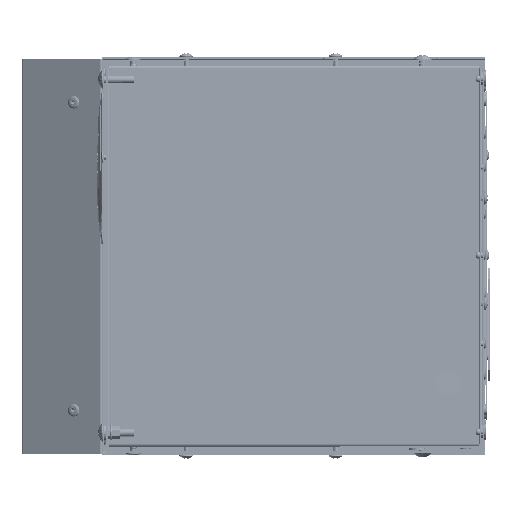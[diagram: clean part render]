
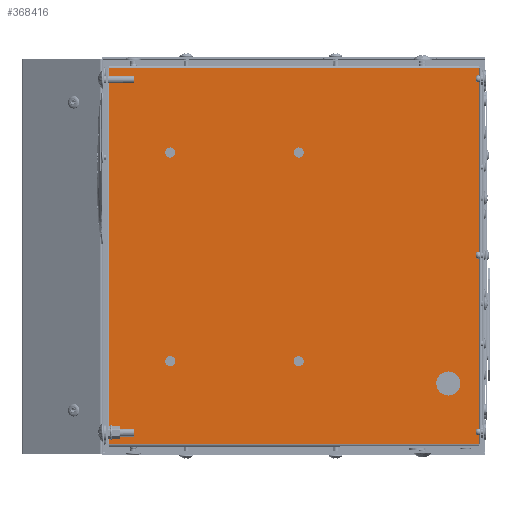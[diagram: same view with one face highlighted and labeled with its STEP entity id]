
A CAD part, front view. The second image highlights one B-rep face of the part: STEP entity #368416.
In plain terms, the highlighted planar face has unit normal (0, -1, 0) as drawn and (0, 0, -1) by its records, which use the part's own axes.
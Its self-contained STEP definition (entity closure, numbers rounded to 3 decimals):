
#9543 = CARTESIAN_POINT ( 'NONE',  ( -146.255, -150.75, -1.422 ) ) ;
#11299 = EDGE_CURVE ( 'NONE', #460472, #285703, #25826, .T. ) ;
#13814 = CARTESIAN_POINT ( 'NONE',  ( -146.255, -148.54, -1.422 ) ) ;
#24416 = CARTESIAN_POINT ( 'NONE',  ( 146.255, 148.54, -1.422 ) ) ;
#25704 = CARTESIAN_POINT ( 'NONE',  ( 0., 0., -1.422 ) ) ;
#25826 = CIRCLE ( 'NONE', #117041, 4. ) ;
#26899 = VECTOR ( 'NONE', #457304, 1000. ) ;
#29392 = EDGE_CURVE ( 'NONE', #103346, #456439, #119246, .T. ) ;
#30578 = CARTESIAN_POINT ( 'NONE',  ( 3.865, 83.15, -1.422 ) ) ;
#31519 = ORIENTED_EDGE ( 'NONE', *, *, #193578, .F. ) ;
#32128 = ORIENTED_EDGE ( 'NONE', *, *, #260641, .F. ) ;
#34718 = DIRECTION ( 'NONE',  ( -1., 0., 0. ) ) ;
#34944 = CARTESIAN_POINT ( 'NONE',  ( 122.265, 100.75, -1.422 ) ) ;
#43455 = CARTESIAN_POINT ( 'NONE',  ( 146.255, -150.75, -1.422 ) ) ;
#46208 = EDGE_CURVE ( 'NONE', #336805, #456439, #89104, .T. ) ;
#48733 = CARTESIAN_POINT ( 'NONE',  ( -97.735, -81.95, -1.422 ) ) ;
#50136 = VERTEX_POINT ( 'NONE', #121982 ) ;
#56711 = VERTEX_POINT ( 'NONE', #24416 ) ;
#59251 = DIRECTION ( 'NONE',  ( 0., 0., -1. ) ) ;
#63734 = AXIS2_PLACEMENT_3D ( 'NONE', #384096, #147924, #423805 ) ;
#65308 = DIRECTION ( 'NONE',  ( -1., 0., 0. ) ) ;
#70146 = DIRECTION ( 'NONE',  ( -1., 0., 0. ) ) ;
#72260 = CARTESIAN_POINT ( 'NONE',  ( -93.735, 83.15, -1.422 ) ) ;
#74523 = DIRECTION ( 'NONE',  ( -1., 0., 0. ) ) ;
#78374 = FACE_BOUND ( 'NONE', #414086, .T. ) ;
#79607 = CARTESIAN_POINT ( 'NONE',  ( 3.865, 83.15, -1.422 ) ) ;
#83094 = DIRECTION ( 'NONE',  ( 0., 1., 0. ) ) ;
#86614 = EDGE_LOOP ( 'NONE', ( #234425, #449902, #128913, #328782 ) ) ;
#88326 = DIRECTION ( 'NONE',  ( -1., 0., 0. ) ) ;
#89104 = LINE ( 'NONE', #9543, #194155 ) ;
#92231 = ORIENTED_EDGE ( 'NONE', *, *, #428296, .F. ) ;
#94756 = ORIENTED_EDGE ( 'NONE', *, *, #11299, .F. ) ;
#99481 = CARTESIAN_POINT ( 'NONE',  ( -97.735, 83.15, -1.422 ) ) ;
#100642 = AXIS2_PLACEMENT_3D ( 'NONE', #99481, #375390, #139199 ) ;
#103346 = VERTEX_POINT ( 'NONE', #113898 ) ;
#108564 = DIRECTION ( 'NONE',  ( 0., 0., -1. ) ) ;
#113898 = CARTESIAN_POINT ( 'NONE',  ( 146.255, -148.54, -1.422 ) ) ;
#117041 = AXIS2_PLACEMENT_3D ( 'NONE', #30578, #306456, #70146 ) ;
#119246 = LINE ( 'NONE', #181399, #26899 ) ;
#119265 = DIRECTION ( 'NONE',  ( -1., 0., 0. ) ) ;
#119809 = EDGE_CURVE ( 'NONE', #239621, #50136, #182024, .T. ) ;
#120091 = EDGE_CURVE ( 'NONE', #159752, #487286, #329874, .T. ) ;
#120182 = ORIENTED_EDGE ( 'NONE', *, *, #119809, .F. ) ;
#121982 = CARTESIAN_POINT ( 'NONE',  ( 7.865, -81.95, -1.422 ) ) ;
#128913 = ORIENTED_EDGE ( 'NONE', *, *, #46208, .F. ) ;
#132335 = VERTEX_POINT ( 'NONE', #419280 ) ;
#136177 = CIRCLE ( 'NONE', #63734, 4. ) ;
#139199 = DIRECTION ( 'NONE',  ( -1., 0., 0. ) ) ;
#144897 = CIRCLE ( 'NONE', #177530, 4. ) ;
#147924 = DIRECTION ( 'NONE',  ( 0., 0., -1. ) ) ;
#159752 = VERTEX_POINT ( 'NONE', #385273 ) ;
#172488 = ORIENTED_EDGE ( 'NONE', *, *, #504807, .F. ) ;
#177530 = AXIS2_PLACEMENT_3D ( 'NONE', #48733, #324597, #88326 ) ;
#177561 = VECTOR ( 'NONE', #83094, 1000. ) ;
#179085 = AXIS2_PLACEMENT_3D ( 'NONE', #34944, #310781, #74523 ) ;
#181399 = CARTESIAN_POINT ( 'NONE',  ( 146.255, -148.54, -1.422 ) ) ;
#182024 = CIRCLE ( 'NONE', #426816, 4. ) ;
#183361 = FACE_BOUND ( 'NONE', #301359, .T. ) ;
#190960 = CARTESIAN_POINT ( 'NONE',  ( -0.135, 83.15, -1.422 ) ) ;
#193578 = EDGE_CURVE ( 'NONE', #132335, #244685, #451516, .T. ) ;
#194155 = VECTOR ( 'NONE', #285338, 1000. ) ;
#195519 = AXIS2_PLACEMENT_3D ( 'NONE', #507005, #270952, #34718 ) ;
#195719 = FACE_BOUND ( 'NONE', #375396, .T. ) ;
#211867 = CARTESIAN_POINT ( 'NONE',  ( -101.735, -81.95, -1.422 ) ) ;
#213728 = CARTESIAN_POINT ( 'NONE',  ( -146.255, 148.54, -1.422 ) ) ;
#214663 = EDGE_LOOP ( 'NONE', ( #303809, #94756 ) ) ;
#217697 = CARTESIAN_POINT ( 'NONE',  ( 122.265, 100.75, -1.422 ) ) ;
#218672 = ORIENTED_EDGE ( 'NONE', *, *, #120091, .F. ) ;
#225284 = EDGE_CURVE ( 'NONE', #103346, #56711, #374945, .T. ) ;
#229577 = CIRCLE ( 'NONE', #346395, 4. ) ;
#234425 = ORIENTED_EDGE ( 'NONE', *, *, #225284, .F. ) ;
#239621 = VERTEX_POINT ( 'NONE', #488445 ) ;
#243043 = DIRECTION ( 'NONE',  ( 1., 0., 0. ) ) ;
#244685 = VERTEX_POINT ( 'NONE', #72260 ) ;
#256249 = CARTESIAN_POINT ( 'NONE',  ( -93.735, -81.95, -1.422 ) ) ;
#257335 = DIRECTION ( 'NONE',  ( -1., 0., 0. ) ) ;
#260641 = EDGE_CURVE ( 'NONE', #507393, #268149, #144897, .T. ) ;
#268149 = VERTEX_POINT ( 'NONE', #256249 ) ;
#270952 = DIRECTION ( 'NONE',  ( 0., 0., -1. ) ) ;
#285338 = DIRECTION ( 'NONE',  ( 0., -1., 0. ) ) ;
#285703 = VERTEX_POINT ( 'NONE', #433713 ) ;
#286198 = CIRCLE ( 'NONE', #331007, 4. ) ;
#288141 = FACE_BOUND ( 'NONE', #482016, .T. ) ;
#289908 = LINE ( 'NONE', #399920, #487260 ) ;
#295481 = CARTESIAN_POINT ( 'NONE',  ( 3.865, -81.95, -1.422 ) ) ;
#300662 = FACE_BOUND ( 'NONE', #214663, .T. ) ;
#301359 = EDGE_LOOP ( 'NONE', ( #343256, #31519 ) ) ;
#301548 = DIRECTION ( 'NONE',  ( 0., 0., -1. ) ) ;
#303809 = ORIENTED_EDGE ( 'NONE', *, *, #357521, .F. ) ;
#306456 = DIRECTION ( 'NONE',  ( 0., 0., -1. ) ) ;
#310781 = DIRECTION ( 'NONE',  ( 0., 0., -1. ) ) ;
#324597 = DIRECTION ( 'NONE',  ( 0., 0., -1. ) ) ;
#325362 = AXIS2_PLACEMENT_3D ( 'NONE', #25704, #301548, #65308 ) ;
#328782 = ORIENTED_EDGE ( 'NONE', *, *, #439078, .T. ) ;
#329874 = CIRCLE ( 'NONE', #179085, 9.525 ) ;
#331007 = AXIS2_PLACEMENT_3D ( 'NONE', #344751, #108564, #384340 ) ;
#335082 = DIRECTION ( 'NONE',  ( -1., 0., 0. ) ) ;
#335822 = CARTESIAN_POINT ( 'NONE',  ( 112.74, 100.75, -1.422 ) ) ;
#336805 = VERTEX_POINT ( 'NONE', #213728 ) ;
#343256 = ORIENTED_EDGE ( 'NONE', *, *, #430128, .F. ) ;
#344751 = CARTESIAN_POINT ( 'NONE',  ( -97.735, -81.95, -1.422 ) ) ;
#346395 = AXIS2_PLACEMENT_3D ( 'NONE', #79607, #355414, #119265 ) ;
#349939 = CIRCLE ( 'NONE', #100642, 4. ) ;
#355414 = DIRECTION ( 'NONE',  ( 0., 0., -1. ) ) ;
#357521 = EDGE_CURVE ( 'NONE', #285703, #460472, #229577, .T. ) ;
#368416 = ADVANCED_FACE ( 'NONE', ( #183361, #300662, #195719, #288141, #78374, #405355 ), #497970, .T. ) ;
#374945 = LINE ( 'NONE', #43455, #177561 ) ;
#375390 = DIRECTION ( 'NONE',  ( 0., 0., -1. ) ) ;
#375396 = EDGE_LOOP ( 'NONE', ( #406123, #120182 ) ) ;
#384096 = CARTESIAN_POINT ( 'NONE',  ( 3.865, -81.95, -1.422 ) ) ;
#384340 = DIRECTION ( 'NONE',  ( -1., 0., 0. ) ) ;
#385273 = CARTESIAN_POINT ( 'NONE',  ( 131.79, 100.75, -1.422 ) ) ;
#388021 = CIRCLE ( 'NONE', #404220, 9.525 ) ;
#399920 = CARTESIAN_POINT ( 'NONE',  ( -146.255, 148.54, -1.422 ) ) ;
#404220 = AXIS2_PLACEMENT_3D ( 'NONE', #217697, #493357, #257335 ) ;
#405355 = FACE_OUTER_BOUND ( 'NONE', #86614, .T. ) ;
#406123 = ORIENTED_EDGE ( 'NONE', *, *, #426422, .F. ) ;
#414086 = EDGE_LOOP ( 'NONE', ( #218672, #92231 ) ) ;
#419280 = CARTESIAN_POINT ( 'NONE',  ( -101.735, 83.15, -1.422 ) ) ;
#423805 = DIRECTION ( 'NONE',  ( -1., 0., 0. ) ) ;
#426422 = EDGE_CURVE ( 'NONE', #50136, #239621, #136177, .T. ) ;
#426816 = AXIS2_PLACEMENT_3D ( 'NONE', #295481, #59251, #335082 ) ;
#428296 = EDGE_CURVE ( 'NONE', #487286, #159752, #388021, .T. ) ;
#430128 = EDGE_CURVE ( 'NONE', #244685, #132335, #349939, .T. ) ;
#433713 = CARTESIAN_POINT ( 'NONE',  ( 7.865, 83.15, -1.422 ) ) ;
#439078 = EDGE_CURVE ( 'NONE', #336805, #56711, #289908, .T. ) ;
#449902 = ORIENTED_EDGE ( 'NONE', *, *, #29392, .T. ) ;
#451516 = CIRCLE ( 'NONE', #195519, 4. ) ;
#456439 = VERTEX_POINT ( 'NONE', #13814 ) ;
#457304 = DIRECTION ( 'NONE',  ( -1., 0., 0. ) ) ;
#460472 = VERTEX_POINT ( 'NONE', #190960 ) ;
#482016 = EDGE_LOOP ( 'NONE', ( #172488, #32128 ) ) ;
#487260 = VECTOR ( 'NONE', #243043, 1000. ) ;
#487286 = VERTEX_POINT ( 'NONE', #335822 ) ;
#488445 = CARTESIAN_POINT ( 'NONE',  ( -0.135, -81.95, -1.422 ) ) ;
#493357 = DIRECTION ( 'NONE',  ( 0., 0., -1. ) ) ;
#497970 = PLANE ( 'NONE',  #325362 ) ;
#504807 = EDGE_CURVE ( 'NONE', #268149, #507393, #286198, .T. ) ;
#507005 = CARTESIAN_POINT ( 'NONE',  ( -97.735, 83.15, -1.422 ) ) ;
#507393 = VERTEX_POINT ( 'NONE', #211867 ) ;
